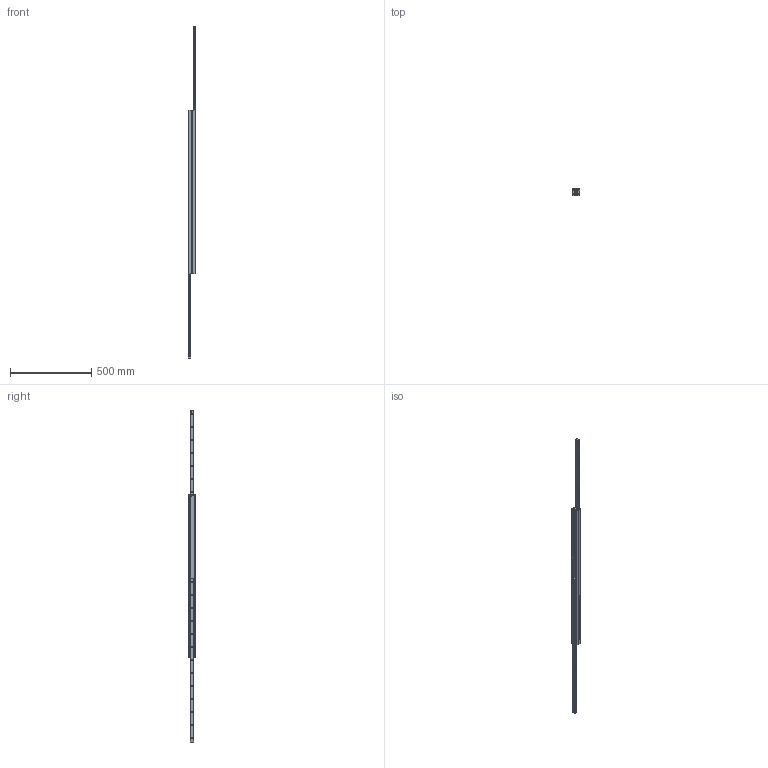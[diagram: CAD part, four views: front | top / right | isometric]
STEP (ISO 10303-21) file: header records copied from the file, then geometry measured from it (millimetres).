
FILE_DESCRIPTION( ( 'STEP AP214' ), '1' );
FILE_NAME( 'p:/temp/worker_94/temp/exporttempdir_5220_875_Y9UsK/format_1/DEF43-10101036.stp', '2020-03-20T19:58:37', ( 'License CC BY-ND 4.0' ), ( 'CADENAS' ), ' ', 'PARTsolutions', ' ' );
FILE_SCHEMA( ( 'AUTOMOTIVE_DESIGN { 1 0 10303 214 1 1 1 1 }' ) );
Length unit declared in the file: millimetre
Products named in the file (4): DEF43-10101036; _43211010103612-gf; _4321101010361-ei; _43211010103611-gf
Assembly tree (4 placements, depth 2):
  DEF43-10101036
    _43211010103612-gf
    _4321101010361-ei  x2
    _43211010103611-gf
Bounding box: 44 x 43 x 2046 mm (x, y, z)
Volume: 1248543.8 mm3; surface area: 476646.2 mm2
Topology: 4 solids, 4 shells, 230 faces, 574 edges, 364 vertices
Faces by surface type: plane 102, cylinder 72, cone 56
Full cylindrical faces by diameter (mm): 4.134 x2, 6.647 x26, 7 x2
Entity records: 6592 total; most frequent: DIRECTION 912, CARTESIAN_POINT 835, ORIENTED_EDGE 734, EDGE_CURVE 367, AXIS2_PLACEMENT_3D 358, EDGE_LOOP 324, VERTEX_POINT 281, FACE_OUTER_BOUND 210
